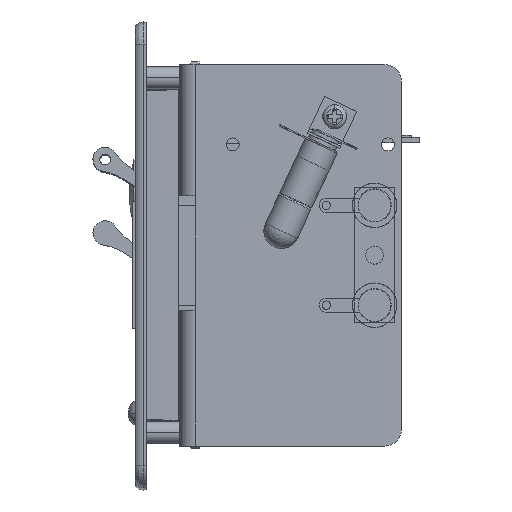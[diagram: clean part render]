
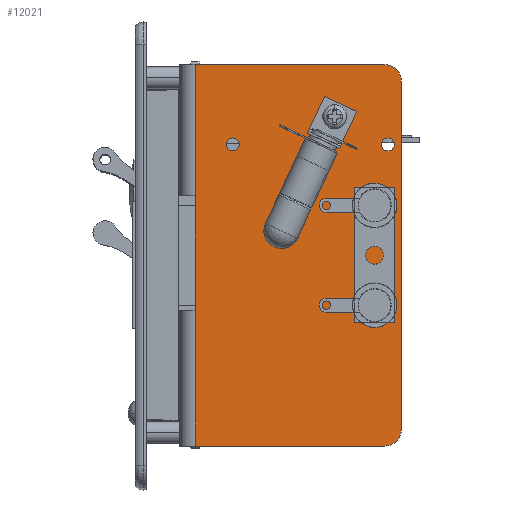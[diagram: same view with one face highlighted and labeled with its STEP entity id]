
A CAD part, top view. The second image highlights one B-rep face of the part: STEP entity #12021.
In plain terms, the highlighted planar face has unit normal (0, 0, 1) as drawn and (0, -1, 0) by its records, which use the part's own axes.
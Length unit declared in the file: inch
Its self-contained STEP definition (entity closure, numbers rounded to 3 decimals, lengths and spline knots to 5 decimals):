
#11013=CARTESIAN_POINT('',(-1.17222,-1.62204,3.3685));
#11014=VERTEX_POINT('',#11013);
#11023=CARTESIAN_POINT('',(-1.17222,-1.62204,3.5155));
#11024=VERTEX_POINT('',#11023);
#11025=CARTESIAN_POINT('',(-1.17222,-1.62204,3.442));
#11026=DIRECTION('',(0.0,1.0,0.0));
#11027=DIRECTION('',(0.0,0.0,-1.0));
#11028=AXIS2_PLACEMENT_3D('',#11025,#11026,#11027);
#11029=CIRCLE('',#11028,0.0735);
#11030=EDGE_CURVE('',#11024,#11014,#11029,.T.);
#11055=CARTESIAN_POINT('',(-1.17222,-1.62204,1.6185));
#11056=VERTEX_POINT('',#11055);
#11065=CARTESIAN_POINT('',(-1.17222,-1.62204,1.7655));
#11066=VERTEX_POINT('',#11065);
#11067=CARTESIAN_POINT('',(-1.17222,-1.62204,1.692));
#11068=DIRECTION('',(0.0,1.0,0.0));
#11069=DIRECTION('',(0.0,0.0,-1.0));
#11070=AXIS2_PLACEMENT_3D('',#11067,#11068,#11069);
#11071=CIRCLE('',#11070,0.0735);
#11072=EDGE_CURVE('',#11066,#11056,#11071,.T.);
#11097=CARTESIAN_POINT('',(-1.48422,-1.62204,2.7575));
#11098=VERTEX_POINT('',#11097);
#11107=CARTESIAN_POINT('',(-1.48422,-1.62204,2.9265));
#11108=VERTEX_POINT('',#11107);
#11109=CARTESIAN_POINT('',(-1.48422,-1.62204,2.842));
#11110=DIRECTION('',(0.0,1.0,0.0));
#11111=DIRECTION('',(0.0,0.0,-1.0));
#11112=AXIS2_PLACEMENT_3D('',#11109,#11110,#11111);
#11113=CIRCLE('',#11112,0.0845);
#11114=EDGE_CURVE('',#11108,#11098,#11113,.T.);
#11139=CARTESIAN_POINT('',(-0.48522,-1.62204,3.167));
#11140=VERTEX_POINT('',#11139);
#11149=CARTESIAN_POINT('',(-0.48522,-1.62204,3.417));
#11150=VERTEX_POINT('',#11149);
#11151=CARTESIAN_POINT('',(-0.48522,-1.62204,3.292));
#11152=DIRECTION('',(0.0,1.0,0.0));
#11153=DIRECTION('',(0.0,0.0,-1.0));
#11154=AXIS2_PLACEMENT_3D('',#11151,#11152,#11153);
#11155=CIRCLE('',#11154,0.125);
#11156=EDGE_CURVE('',#11150,#11140,#11155,.T.);
#11181=CARTESIAN_POINT('',(0.63978,-1.62204,3.167));
#11182=VERTEX_POINT('',#11181);
#11191=CARTESIAN_POINT('',(0.63978,-1.62204,3.417));
#11192=VERTEX_POINT('',#11191);
#11193=CARTESIAN_POINT('',(0.63978,-1.62204,3.292));
#11194=DIRECTION('',(0.0,1.0,0.0));
#11195=DIRECTION('',(0.0,0.0,-1.0));
#11196=AXIS2_PLACEMENT_3D('',#11193,#11194,#11195);
#11197=CIRCLE('',#11196,0.125);
#11198=EDGE_CURVE('',#11192,#11182,#11197,.T.);
#11234=CARTESIAN_POINT('',(-2.07222,-1.62204,3.4045));
#11235=VERTEX_POINT('',#11234);
#11242=CARTESIAN_POINT('',(-1.88472,-1.62204,3.592));
#11243=VERTEX_POINT('',#11242);
#11244=CARTESIAN_POINT('',(-1.88472,-1.62204,3.4045));
#11245=DIRECTION('',(0.0,1.,0.0));
#11246=DIRECTION('',(-0.707,0.0,0.707));
#11247=AXIS2_PLACEMENT_3D('',#11244,#11245,#11246);
#11248=CIRCLE('',#11247,0.1875);
#11249=EDGE_CURVE('',#11235,#11243,#11248,.T.);
#11380=CARTESIAN_POINT('',(2.04028,-1.62204,3.592));
#11381=VERTEX_POINT('',#11380);
#11382=CARTESIAN_POINT('',(2.04028,-1.62204,3.592));
#11383=DIRECTION('',(-1.0,0.0,0.0));
#11384=VECTOR('',#11383,3.925);
#11385=LINE('',#11382,#11384);
#11386=EDGE_CURVE('',#11381,#11243,#11385,.T.);
#11405=CARTESIAN_POINT('',(2.22778,-1.62204,3.4045));
#11406=VERTEX_POINT('',#11405);
#11407=CARTESIAN_POINT('',(2.04028,-1.62204,3.4045));
#11408=DIRECTION('',(0.0,1.,0.0));
#11409=DIRECTION('',(0.707,0.0,0.707));
#11410=AXIS2_PLACEMENT_3D('',#11407,#11408,#11409);
#11411=CIRCLE('',#11410,0.1875);
#11412=EDGE_CURVE('',#11381,#11406,#11411,.T.);
#11462=CARTESIAN_POINT('',(0.70028,-1.62204,1.272));
#11463=VERTEX_POINT('',#11462);
#11470=CARTESIAN_POINT('',(-0.59472,-1.62204,1.272));
#11471=VERTEX_POINT('',#11470);
#11472=CARTESIAN_POINT('',(0.70028,-1.62204,1.272));
#11473=DIRECTION('',(-1.0,0.0,0.0));
#11474=VECTOR('',#11473,1.295);
#11475=LINE('',#11472,#11474);
#11476=EDGE_CURVE('',#11463,#11471,#11475,.T.);
#11509=CARTESIAN_POINT('',(2.22778,-1.62204,1.272));
#11510=VERTEX_POINT('',#11509);
#11518=CARTESIAN_POINT('',(2.22778,-1.62204,1.272));
#11519=DIRECTION('',(-1.0,0.0,0.0));
#11520=VECTOR('',#11519,1.5275);
#11521=LINE('',#11518,#11520);
#11522=EDGE_CURVE('',#11510,#11463,#11521,.T.);
#11541=CARTESIAN_POINT('',(-2.07222,-1.62204,1.272));
#11542=VERTEX_POINT('',#11541);
#11543=CARTESIAN_POINT('',(-0.59472,-1.62204,1.272));
#11544=DIRECTION('',(-1.0,0.0,0.0));
#11545=VECTOR('',#11544,1.4775);
#11546=LINE('',#11543,#11545);
#11547=EDGE_CURVE('',#11471,#11542,#11546,.T.);
#11762=CARTESIAN_POINT('',(0.63978,-1.62204,3.292));
#11763=DIRECTION('',(0.0,1.0,0.0));
#11764=DIRECTION('',(0.0,0.0,-1.0));
#11765=AXIS2_PLACEMENT_3D('',#11762,#11763,#11764);
#11766=CIRCLE('',#11765,0.125);
#11767=EDGE_CURVE('',#11182,#11192,#11766,.T.);
#11780=CARTESIAN_POINT('',(-0.48522,-1.62204,3.292));
#11781=DIRECTION('',(0.0,1.0,0.0));
#11782=DIRECTION('',(0.0,0.0,-1.0));
#11783=AXIS2_PLACEMENT_3D('',#11780,#11781,#11782);
#11784=CIRCLE('',#11783,0.125);
#11785=EDGE_CURVE('',#11140,#11150,#11784,.T.);
#11798=CARTESIAN_POINT('',(-1.48422,-1.62204,2.842));
#11799=DIRECTION('',(0.0,1.0,0.0));
#11800=DIRECTION('',(0.0,0.0,-1.0));
#11801=AXIS2_PLACEMENT_3D('',#11798,#11799,#11800);
#11802=CIRCLE('',#11801,0.0845);
#11803=EDGE_CURVE('',#11098,#11108,#11802,.T.);
#11816=CARTESIAN_POINT('',(-1.17222,-1.62204,1.692));
#11817=DIRECTION('',(0.0,1.0,0.0));
#11818=DIRECTION('',(0.0,0.0,-1.0));
#11819=AXIS2_PLACEMENT_3D('',#11816,#11817,#11818);
#11820=CIRCLE('',#11819,0.0735);
#11821=EDGE_CURVE('',#11056,#11066,#11820,.T.);
#11834=CARTESIAN_POINT('',(-1.17222,-1.62204,3.442));
#11835=DIRECTION('',(0.0,1.0,0.0));
#11836=DIRECTION('',(0.0,0.0,-1.0));
#11837=AXIS2_PLACEMENT_3D('',#11834,#11835,#11836);
#11838=CIRCLE('',#11837,0.0735);
#11839=EDGE_CURVE('',#11014,#11024,#11838,.T.);
#11850=CARTESIAN_POINT('',(2.22778,-1.62204,1.272));
#11851=DIRECTION('',(0.0,0.0,1.0));
#11852=VECTOR('',#11851,2.1325);
#11853=LINE('',#11850,#11852);
#11854=EDGE_CURVE('',#11510,#11406,#11853,.T.);
#11981=CARTESIAN_POINT('',(0.92778,-1.62204,1.092));
#11982=DIRECTION('',(0.0,-1.0,0.0));
#11983=DIRECTION('',(0.0,0.0,-1.0));
#11984=AXIS2_PLACEMENT_3D('',#11981,#11982,#11983);
#11985=PLANE('',#11984);
#11986=ORIENTED_EDGE('',*,*,#11249,.F.);
#11987=CARTESIAN_POINT('',(-2.07222,-1.62204,1.272));
#11988=DIRECTION('',(0.0,0.0,1.0));
#11989=VECTOR('',#11988,2.1325);
#11990=LINE('',#11987,#11989);
#11991=EDGE_CURVE('',#11542,#11235,#11990,.T.);
#11992=ORIENTED_EDGE('',*,*,#11991,.F.);
#11993=ORIENTED_EDGE('',*,*,#11547,.F.);
#11994=ORIENTED_EDGE('',*,*,#11476,.F.);
#11995=ORIENTED_EDGE('',*,*,#11522,.F.);
#11996=ORIENTED_EDGE('',*,*,#11854,.T.);
#11997=ORIENTED_EDGE('',*,*,#11412,.F.);
#11998=ORIENTED_EDGE('',*,*,#11386,.T.);
#11999=EDGE_LOOP('',(#11986,#11992,#11993,#11994,#11995,#11996,#11997,#11998));
#12000=FACE_OUTER_BOUND('',#11999,.T.);
#12001=ORIENTED_EDGE('',*,*,#11767,.T.);
#12002=ORIENTED_EDGE('',*,*,#11198,.T.);
#12003=EDGE_LOOP('',(#12001,#12002));
#12004=FACE_BOUND('',#12003,.T.);
#12005=ORIENTED_EDGE('',*,*,#11785,.T.);
#12006=ORIENTED_EDGE('',*,*,#11156,.T.);
#12007=EDGE_LOOP('',(#12005,#12006));
#12008=FACE_BOUND('',#12007,.T.);
#12009=ORIENTED_EDGE('',*,*,#11803,.T.);
#12010=ORIENTED_EDGE('',*,*,#11114,.T.);
#12011=EDGE_LOOP('',(#12009,#12010));
#12012=FACE_BOUND('',#12011,.T.);
#12013=ORIENTED_EDGE('',*,*,#11821,.T.);
#12014=ORIENTED_EDGE('',*,*,#11072,.T.);
#12015=EDGE_LOOP('',(#12013,#12014));
#12016=FACE_BOUND('',#12015,.T.);
#12017=ORIENTED_EDGE('',*,*,#11839,.T.);
#12018=ORIENTED_EDGE('',*,*,#11030,.T.);
#12019=EDGE_LOOP('',(#12017,#12018));
#12020=FACE_BOUND('',#12019,.T.);
#12021=ADVANCED_FACE('',(#12000,#12004,#12008,#12012,#12016,#12020),#11985,.T.);
